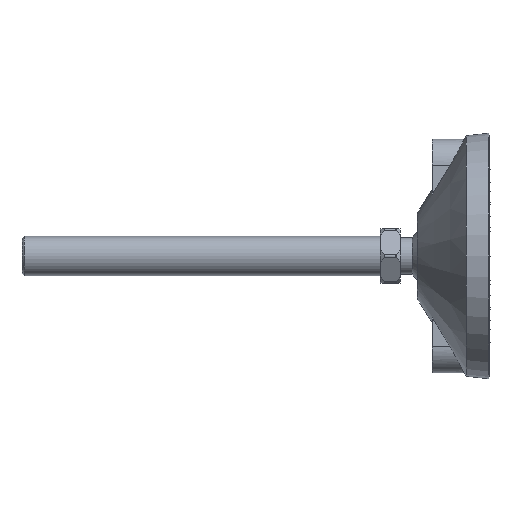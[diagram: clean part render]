
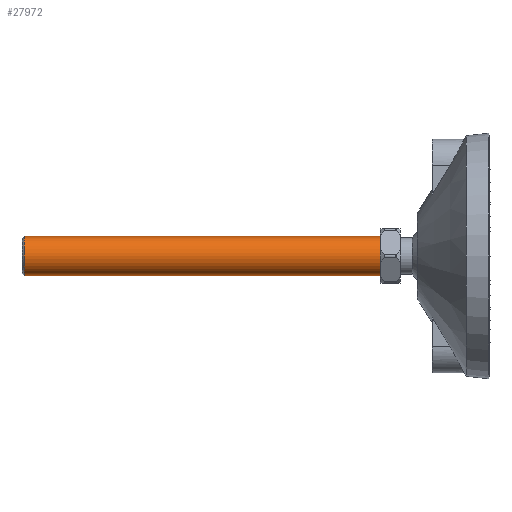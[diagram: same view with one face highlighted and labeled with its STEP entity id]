
A CAD part, left-side view. The second image highlights one B-rep face of the part: STEP entity #27972.
In plain terms, the highlighted cylindrical face has radius 8 mm (diameter 16 mm), a partial arc.
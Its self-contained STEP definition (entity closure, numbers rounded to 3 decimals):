
#824 = EDGE_LOOP ( 'NONE', ( #45764, #38635, #5206, #20854 ) ) ;
#2417 = VERTEX_POINT ( 'NONE', #28044 ) ;
#4870 = AXIS2_PLACEMENT_3D ( 'NONE', #24896, #29225, #43583 ) ;
#5108 = DIRECTION ( 'NONE',  ( 0., -1., 0. ) ) ;
#5206 = ORIENTED_EDGE ( 'NONE', *, *, #12627, .T. ) ;
#6242 = AXIS2_PLACEMENT_3D ( 'NONE', #39189, #12933, #35817 ) ;
#7334 = EDGE_CURVE ( 'NONE', #32616, #14404, #36062, .T. ) ;
#8676 = CYLINDRICAL_SURFACE ( 'NONE', #6242, 8. ) ;
#10621 = VERTEX_POINT ( 'NONE', #33412 ) ;
#12627 = EDGE_CURVE ( 'NONE', #14404, #2417, #13994, .T. ) ;
#12933 = DIRECTION ( 'NONE',  ( 0., -1., 0. ) ) ;
#13994 = LINE ( 'NONE', #35495, #36126 ) ;
#14404 = VERTEX_POINT ( 'NONE', #39962 ) ;
#18292 = CARTESIAN_POINT ( 'NONE',  ( 0., 189., 8. ) ) ;
#20238 = LINE ( 'NONE', #24241, #38019 ) ;
#20854 = ORIENTED_EDGE ( 'NONE', *, *, #37975, .F. ) ;
#24241 = CARTESIAN_POINT ( 'NONE',  ( 0., 190., 8. ) ) ;
#24453 = DIRECTION ( 'NONE',  ( 0., -1., 0. ) ) ;
#24896 = CARTESIAN_POINT ( 'NONE',  ( 0., 189., 0. ) ) ;
#26921 = EDGE_CURVE ( 'NONE', #32616, #10621, #20238, .T. ) ;
#27934 = CIRCLE ( 'NONE', #37145, 8. ) ;
#27972 = ADVANCED_FACE ( 'NONE', ( #41856 ), #8676, .T. ) ;
#28044 = CARTESIAN_POINT ( 'NONE',  ( 0., 44., -8. ) ) ;
#29225 = DIRECTION ( 'NONE',  ( 0., -1., 0. ) ) ;
#32616 = VERTEX_POINT ( 'NONE', #18292 ) ;
#33412 = CARTESIAN_POINT ( 'NONE',  ( 0., 44., 8. ) ) ;
#34130 = CARTESIAN_POINT ( 'NONE',  ( 0., 44., 0. ) ) ;
#35495 = CARTESIAN_POINT ( 'NONE',  ( 0., 190., -8. ) ) ;
#35817 = DIRECTION ( 'NONE',  ( 0., 0., -1. ) ) ;
#36062 = CIRCLE ( 'NONE', #4870, 8. ) ;
#36126 = VECTOR ( 'NONE', #24453, 1000. ) ;
#37145 = AXIS2_PLACEMENT_3D ( 'NONE', #34130, #5108, #45612 ) ;
#37975 = EDGE_CURVE ( 'NONE', #10621, #2417, #27934, .T. ) ;
#38019 = VECTOR ( 'NONE', #38837, 1000. ) ;
#38635 = ORIENTED_EDGE ( 'NONE', *, *, #7334, .T. ) ;
#38837 = DIRECTION ( 'NONE',  ( 0., -1., 0. ) ) ;
#39189 = CARTESIAN_POINT ( 'NONE',  ( 0., 190., 0. ) ) ;
#39962 = CARTESIAN_POINT ( 'NONE',  ( 0., 189., -8. ) ) ;
#41856 = FACE_OUTER_BOUND ( 'NONE', #824, .T. ) ;
#43583 = DIRECTION ( 'NONE',  ( 0., 0., 1. ) ) ;
#45612 = DIRECTION ( 'NONE',  ( 0., 0., -1. ) ) ;
#45764 = ORIENTED_EDGE ( 'NONE', *, *, #26921, .F. ) ;
